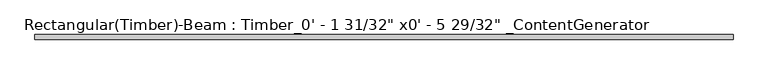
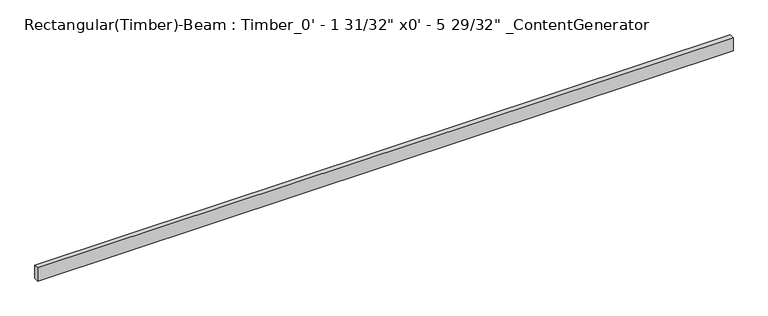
"""IFC4 building model written with IfcOpenShell, lengths in millimetres: beam geometry."""

from ifc_helpers import new_model, si_unit, frame, origin, place, context, project, spatial, polyline, outline, extrude, source, transform, mapped, element, save


def beam_3cab4559(model_context):
    return source(origin(), model_context, "Body", "SweptSolid", [
        extrude(outline(polyline([(3733.8, 25.4), (3733.8, -25.4), (-3886.2, -25.4), (-3886.2, 25.4), (3733.8, 25.4)])), frame((0.0, 0.0, -76.2), z_axis=(0.0, 0.0, 1.0), x_axis=(1.0, 0.0, 0.0)), (0.0, 0.0, 1.0), 152.4),
    ])


if __name__ == "__main__":
    model = new_model("IFC4")
    model_context = context("Model", 3, world=origin())
    ifc_project = project(units=[si_unit("LENGTHUNIT", "METRE", prefix="MILLI")], contexts=[model_context])
    site = spatial("IfcSite", under=ifc_project)
    building = spatial("IfcBuilding", under=site)
    placement = place(None, origin())
    beam_shape = beam_3cab4559(model_context)
    element("IfcBeam", 1, ObjectType="Rectangular(Timber)-Beam : Timber_0' - 1 31/32\" x0' - 5 29/32\" _ContentGenerator", at=placement, inside=building, context=model_context, shape_type="MappedRepresentation", body=[
        mapped(beam_shape, transform((0.0, 0.0, 0.0), x_axis=(1.0, 0.0, 0.0), y_axis=(0.0, 1.0, 0.0), z_axis=(0.0, 0.0, 1.0))),
    ])
    save(model, "model.ifc")
